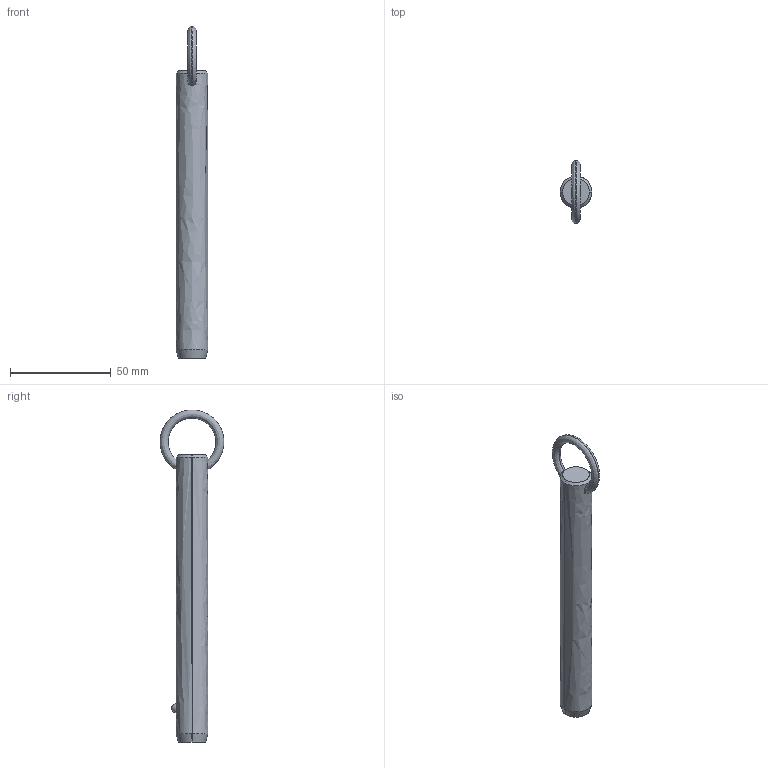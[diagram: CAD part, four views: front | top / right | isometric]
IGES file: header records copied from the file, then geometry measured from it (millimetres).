
Start section: SolidWorks IGES file using analytic representation for surfaces
Global section: file name: C:\Users\liam_\OneDrive\Documents\WORK\Work for WixRoyd\Job Files\J-00019 - Matt Davis CAD Checking\04. CAD Drawings\automotion20190605\P1250.2_v2\P1250.2_v2_20190729_IGES\P1250.062-450.igs; native system: SolidWorks 2017; preprocessor: SolidWorks 2017; author: liam_; date: 190729.233801; units: millimetre
Bounding box: 15.8 x 31.63 x 165 mm (x, y, z)
Surface area: 8262 mm2 (no closed solid volume)
Topology: 0 solids, 0 shells, 12 faces, 292 edges, 290 vertices
Faces by surface type: revolution 8, bspline 4
